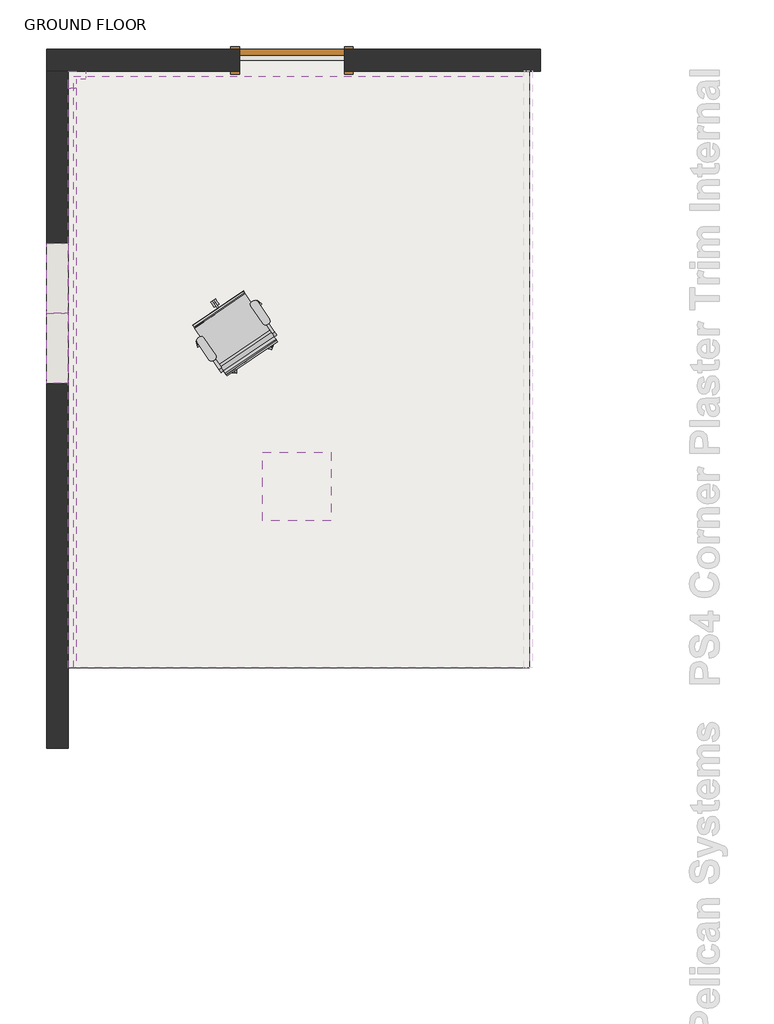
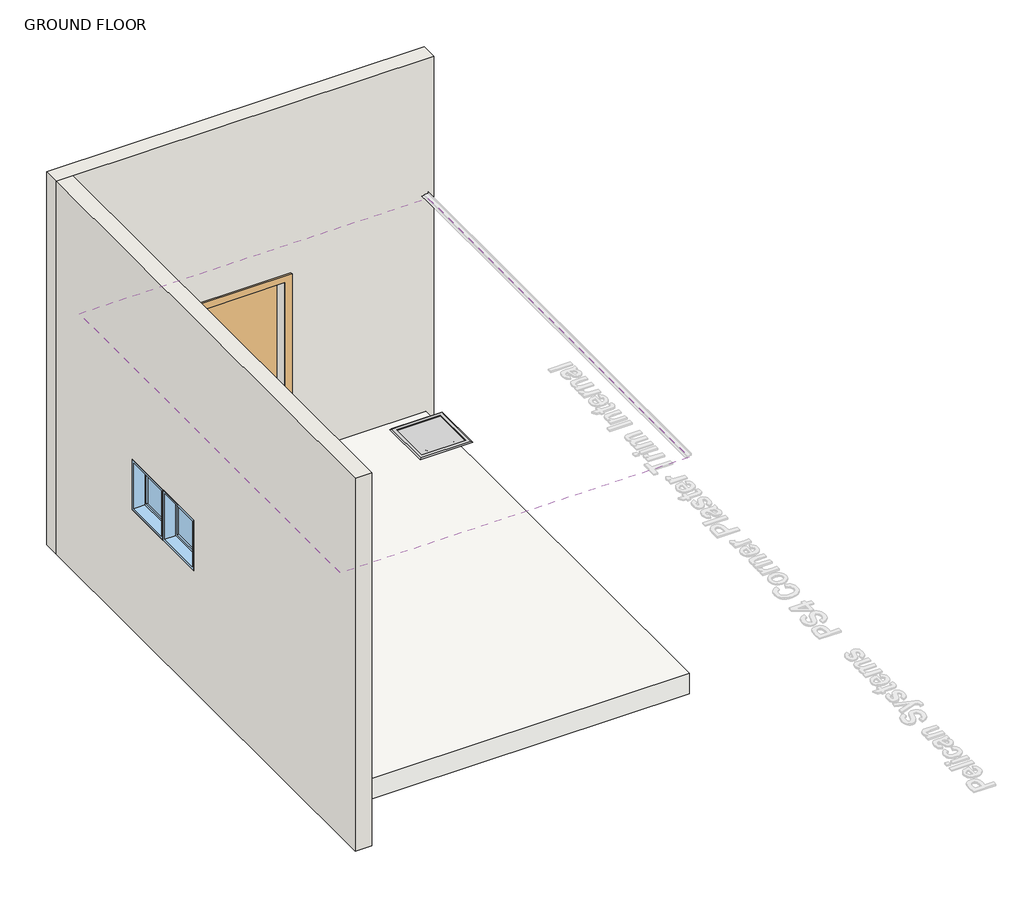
# One storey, part 1 of 2: 3 proxies, 2 walls, 2 windows, 1 covering, 1 door, 1 furniture element, 1 slab.
"""IFC4 building model written with IfcOpenShell, lengths in millimetres."""

from ifc_helpers import new_model, si_unit, point, frame, frame_2d, origin, place, context, project, spatial, polyline, circle_curve, trimmed, segment, composite_curve, outline, extrude, faceted_brep, transform, mapped, element, save
from components import ps4_corner_trim_internal_61b28674, m_single_flush_0915_x_2134mm_f5238887, chair_task_arms_chair_task_arms_3b363349, m_fixed_0610_x_0610mm_09852ef8

model = new_model("IFC4")

# Units and contexts
model_context = context("Model", 3, world=origin())
ifc_project = project(units=[si_unit("LENGTHUNIT", "METRE", prefix="MILLI")], contexts=[model_context])

# Site, building, storey
site = spatial("IfcSite", under=ifc_project)
building = spatial("IfcBuilding", under=site)
storey = spatial("IfcBuildingStorey", under=building, Name="GROUND FLOOR", Elevation=0.0)

# Proxies
placement = place(None, origin())
element("IfcBuildingElementProxy", 1, Name="Flushline Outer Frame : Flushline Outer Frame", ObjectType="Flushline Outer Frame : Flushline Outer Frame", at=placement, inside=storey, context=model_context, shape_type="SolidModel", body=[
    faceted_brep([(129682.6212716, 51249.9489557, 2611.475), (129682.6212716, 50739.2489557, 2611.475), (130193.3212716, 50739.2489557, 2611.475), (130193.3212716, 51249.9489557, 2611.475), (129688.9712716, 51243.5989557, 2611.475), (130186.9712716, 51243.5989557, 2611.475), (130186.9712716, 50745.5989557, 2611.475), (129688.9712716, 50745.5989557, 2611.475), (129682.6212716, 51249.9489557, 2600.0), (130193.3212716, 51249.9489557, 2600.0), (130193.3212716, 50739.2489557, 2600.0), (129682.6212716, 50739.2489557, 2600.0), (129688.9712716, 51243.5989557, 2600.0), (129688.9712716, 50745.5989557, 2600.0), (130186.9712716, 50745.5989557, 2600.0), (130186.9712716, 51243.5989557, 2600.0), (129682.6212716, 51249.9489557, 2611.0), (129682.6212716, 50739.2489557, 2611.0), (130193.3212716, 50739.2489557, 2611.0), (130193.3212716, 51249.9489557, 2611.0)], [[[0, 1, 2, 3], [4, 5, 6, 7]], [[8, 9, 10, 11], [12, 13, 14, 15]], [[5, 4, 12, 15]], [[6, 5, 15, 14]], [[7, 6, 14, 13]], [[4, 7, 13, 12]], [[1, 0, 16, 8, 11, 17]], [[2, 1, 17, 11, 10, 18]], [[3, 2, 18, 10, 9, 19]], [[0, 3, 19, 9, 8, 16]]]),
    extrude(outline(polyline([(129688.9712716, 51243.5989557), (130186.9712716, 51243.5989557), (130186.9712716, 50745.5989557), (129688.9712716, 50745.5989557), (129688.9712716, 51243.5989557)])), frame((0.0, 0.0, 2600.0), z_axis=(0.0, 0.0, 1.0), x_axis=(1.0, 0.0, 0.0)), (0.0, 0.0, 1.0), 11.475),
    faceted_brep([(129688.9712716, 51243.5989557, 2621.0), (129688.9712716, 51243.5989557, 2611.475), (130186.9712716, 51243.5989557, 2611.475), (130186.9712716, 51243.5989557, 2621.0), (130186.9712716, 50745.5989557, 2611.475), (130186.9712716, 50745.5989557, 2621.0), (129688.9712716, 50745.5989557, 2611.475), (129688.9712716, 50745.5989557, 2621.0), (130237.7712716, 51294.3989557, 2611.475), (130237.7712716, 50694.7989557, 2611.475), (129638.1712716, 50694.7989557, 2611.475), (129638.1712716, 51294.3989557, 2611.475), (129650.8712716, 51281.6989557, 2621.0), (129650.8712716, 50707.4989557, 2621.0), (130225.0712716, 50707.4989557, 2621.0), (130225.0712716, 51281.6989557, 2621.0)], [[[0, 1, 2, 3]], [[3, 2, 4, 5]], [[5, 4, 6, 7]], [[8, 9, 10, 11], [1, 6, 4, 2]], [[12, 13, 14, 15], [3, 5, 7, 0]], [[7, 6, 1, 0]], [[11, 12, 15, 8]], [[8, 15, 14, 9]], [[9, 14, 13, 10]], [[10, 13, 12, 11]]]),
    extrude(outline(composite_curve([segment(trimmed(circle_curve(frame_2d((129778.9712716, 50811.9489557)), 10.0), [point((129778.9712716, 50801.9489557))], [point((129778.9712716, 50821.9489557))], False, "CARTESIAN"), True, "CONTINUOUS"), segment(trimmed(circle_curve(frame_2d((129778.9712716, 50811.9489557)), 10.0), [point((129778.9712716, 50821.9489557))], [point((129778.9712716, 50801.9489557))], False, "CARTESIAN"), True, "CONTINUOUS")], self_intersect=False)), frame((0.0, 0.0, 2593.65), z_axis=(0.0, 0.0, 1.0), x_axis=(1.0, 0.0, 0.0)), (0.0, 0.0, 1.0), 6.35),
    extrude(outline(composite_curve([segment(trimmed(circle_curve(frame_2d((130096.9712716, 50811.9489557)), 10.0), [point((130096.9712716, 50801.9489557))], [point((130096.9712716, 50821.9489557))], False, "CARTESIAN"), True, "CONTINUOUS"), segment(trimmed(circle_curve(frame_2d((130096.9712716, 50811.9489557)), 10.0), [point((130096.9712716, 50821.9489557))], [point((130096.9712716, 50801.9489557))], False, "CARTESIAN"), True, "CONTINUOUS")], self_intersect=False)), frame((0.0, 0.0, 2593.65), z_axis=(0.0, 0.0, 1.0), x_axis=(1.0, 0.0, 0.0)), (0.0, 0.0, 1.0), 6.35),
])
ps4_corner_trim_internal_shape = ps4_corner_trim_internal_61b28674(model_context)
element("IfcBuildingElementProxy", 2, Name="PS4 Corner Trim - Internal : Trims Pelican Systems Plaster Trim 45 x 20", ObjectType="PS4 Corner Trim - Internal : Trims Pelican Systems Plaster Trim 45 x 20", at=placement, inside=storey, context=model_context, shape_type="MappedRepresentation", body=[
    mapped(ps4_corner_trim_internal_shape, transform((127972.7345529, 54587.9193804, 2620.0), x_axis=(1.0, 0.0, 0.0), y_axis=(0.0, 1.0, 0.0), z_axis=(0.0, 0.0, 1.0))),
])
element("IfcBuildingElementProxy", 3, Name="TR05 : Trims Pelican Systems Plaster Trim 45 x 45", ObjectType="TR05 : Trims Pelican Systems Plaster Trim 45 x 45", at=placement, inside=storey, context=model_context, shape_type="SweptSolid", body=[
    extrude(outline(polyline([(2665.0, 127942.7345529), (2644.0, 127942.7345529), (2644.0, 127987.7345529), (2599.9842933, 127987.7345529), (2599.9842933, 127988.7345529), (2610.9842933, 127988.7345529), (2610.9842933, 128012.7345529), (2611.9842933, 128012.7345529), (2611.9842933, 127988.7345529), (2645.0, 127988.7345529), (2645.0, 127943.7345529), (2665.0, 127943.7345529), (2665.0, 127942.7345529)])), frame((0.0, 49412.9193804, 0.0), z_axis=(0.0, 1.0, 0.0), x_axis=(0.0, 0.0, 1.0)), (0.0, 0.0, 1.0), 5055.0),
])

# Covering
element("IfcCovering", 4, ObjectType="_C2.3 - 12mm FLUSHPLASTER CEILING (UNDER CONCRETE SOFFIT)", at=placement, inside=storey, context=model_context, shape_type="SweptSolid", body=[
    extrude(outline(polyline([(127988.7345529, 54571.9193804), (131966.7345529, 54571.9193804), (131966.7345529, 49412.9193804), (127988.7345529, 49412.9193804), (127988.7345529, 54571.9193804)]), holes=[polyline([(129682.6212716, 51249.9489557), (129682.6212716, 50739.2489557), (130193.3212716, 50739.2489557), (130193.3212716, 51249.9489557), (129682.6212716, 51249.9489557)])]), frame((0.0, 0.0, 2600.0), z_axis=(0.0, 0.0, 1.0), x_axis=(1.0, 0.0, 0.0)), (0.0, 0.0, 1.0), 11.0),
])

# Door
m_single_flush_0915_x_2134mm_shape = m_single_flush_0915_x_2134mm_f5238887(model_context)
element("IfcDoor", 5, ObjectType="M_Single-Flush : 0915 x 2134mm", at=placement, inside=storey, context=model_context, shape_type="MappedRepresentation", body=[
    mapped(m_single_flush_0915_x_2134mm_shape, transform((129894.7345529, 54712.9193804, 0.0), x_axis=(1.0, 0.0, 0.0), y_axis=(0.0, 1.0, 0.0), z_axis=(0.0, 0.0, 1.0))),
])

# Furniture
chair_task_arms_chair_task_arms_shape = chair_task_arms_chair_task_arms_3b363349(model_context)
element("IfcFurniture", 6, ObjectType="Chair-Task Arms : Chair-Task Arms", at=placement, inside=storey, context=model_context, shape_type="MappedRepresentation", body=[
    mapped(chair_task_arms_chair_task_arms_shape, transform((129292.677586, 52236.7323612, 0.0), x_axis=(0.8290375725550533, 0.5591929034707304, 0.0), y_axis=(-0.5591929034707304, 0.8290375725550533, 0.0), z_axis=(0.0, 0.0, 1.0))),
])

# Slab
element("IfcSlab", 7, ObjectType="Generic Floor - 250mm", at=placement, inside=storey, context=model_context, shape_type="Brep", body=[
    faceted_brep([(127866.7345529, 54712.9193804, -250.0), (131966.7345529, 54712.9193804, -250.0), (131966.7345529, 54617.9193804, -250.0), (131966.7345529, 49412.9193804, -250.0), (127866.7345529, 49412.9193804, -250.0), (127866.7345529, 54617.9193804, -250.0), (127866.7345529, 54712.9193804, 0.0), (127866.7345529, 54617.9193804, 0.0), (127866.7345529, 49412.9193804, 0.0), (131966.7345529, 49412.9193804, 0.0), (131966.7345529, 54617.9193804, 0.0), (131966.7345529, 54712.9193804, 0.0), (130352.2345529, 54712.9193804, 0.0), (129437.2345529, 54712.9193804, 0.0)], [[[0, 1, 2, 3, 4, 5]], [[6, 7, 8, 9, 10, 11, 12, 13]], [[1, 0, 6, 13, 12, 11]], [[3, 2, 1, 11, 10, 9]], [[4, 3, 9, 8]], [[0, 5, 4, 8, 7, 6]]]),
])

# Walls
element("IfcWall", 8, ObjectType="190mm MAXI BLOCK- plastered", at=placement, inside=storey, context=model_context, shape_type="Brep", body=[
    faceted_brep([(132061.7345529, 54617.9193804, -250.0), (132061.7345529, 54617.9193804, 4250.0), (127942.7345529, 54617.9193804, 4250.0), (127752.7345529, 54617.9193804, 4250.0), (127752.7345529, 54617.9193804, -250.0), (127866.7345529, 54617.9193804, -250.0), (127866.7345529, 54617.9193804, 0.0), (129437.2345529, 54617.9193804, 0.0), (129437.2345529, 54617.9193804, 2134.0), (130352.2345529, 54617.9193804, 2134.0), (130352.2345529, 54617.9193804, 0.0), (131966.7345529, 54617.9193804, 0.0), (131966.7345529, 54617.9193804, -250.0), (132061.7345529, 54807.9193804, -250.0), (127752.7345529, 54807.9193804, -250.0), (127752.7345529, 54807.9193804, 4250.0), (132061.7345529, 54807.9193804, 4250.0), (129437.2345529, 54807.9193804, 0.0), (130352.2345529, 54807.9193804, 0.0), (130352.2345529, 54807.9193804, 2134.0), (129437.2345529, 54807.9193804, 2134.0), (131966.7345529, 54712.9193804, -250.0), (127866.7345529, 54712.9193804, -250.0), (129437.2345529, 54712.9193804, 0.0), (130352.2345529, 54712.9193804, 0.0), (127866.7345529, 54712.9193804, 0.0), (131966.7345529, 54712.9193804, 0.0)], [[[0, 1, 2, 3, 4, 5, 6, 7, 8, 9, 10, 11, 12]], [[13, 14, 15, 16], [17, 18, 19, 20]], [[14, 13, 0, 12, 21, 22, 5, 4]], [[1, 0, 13, 16]], [[3, 2, 1, 16, 15]], [[18, 17, 23, 24]], [[19, 18, 24, 10, 9]], [[20, 19, 9, 8]], [[17, 20, 8, 7, 23]], [[25, 23, 7, 6]], [[24, 26, 11, 10]], [[25, 22, 21, 26, 24, 23]], [[22, 25, 6, 5]], [[26, 21, 12, 11]], [[4, 3, 15, 14]]]),
])
element("IfcWall", 9, ObjectType="190mm MAXI BLOCK- plastered", at=placement, inside=storey, context=model_context, shape_type="SweptSolid", body=[
    extrude(outline(polyline([(54617.9193804, -250.0), (48712.9193804, -250.0), (48712.9193804, 4250.0), (54617.9193804, 4250.0), (54617.9193804, -250.0)]), holes=[polyline([(51897.9193804, 1200.0), (53117.9193804, 1200.0), (53117.9193804, 1810.0), (51897.9193804, 1810.0), (51897.9193804, 1200.0)])]), frame((127752.7345529, 0.0, 0.0), z_axis=(1.0, 0.0, 0.0), x_axis=(0.0, 1.0, 0.0)), (0.0, 0.0, 1.0), 190.0),
])

# Windows
m_fixed_0610_x_0610mm_shape = m_fixed_0610_x_0610mm_09852ef8(model_context)
element("IfcWindow", 10, ObjectType="M_Fixed : 0610 x 0610mm", at=placement, inside=storey, context=model_context, shape_type="MappedRepresentation", body=[
    mapped(m_fixed_0610_x_0610mm_shape, transform((127834.7345529, 52812.9193804, 285.0), x_axis=(0.0, -1.0, 0.0), y_axis=(1.0, 0.0, 0.0), z_axis=(0.0, 0.0, 1.0))),
])
element("IfcWindow", 11, ObjectType="M_Fixed : 0610 x 0610mm", at=placement, inside=storey, context=model_context, shape_type="MappedRepresentation", body=[
    mapped(m_fixed_0610_x_0610mm_shape, transform((127834.7345529, 52202.9193804, 285.0), x_axis=(0.0, -1.0, 0.0), y_axis=(1.0, 0.0, 0.0), z_axis=(0.0, 0.0, 1.0))),
])

save(model, "model.ifc")
